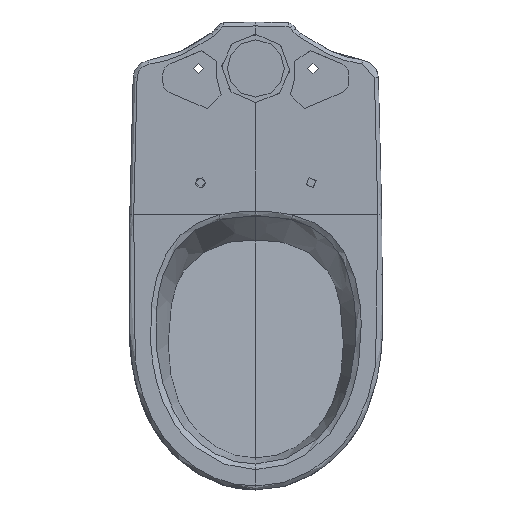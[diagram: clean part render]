
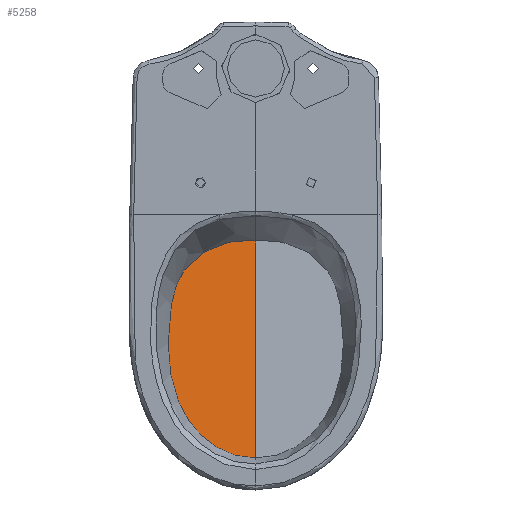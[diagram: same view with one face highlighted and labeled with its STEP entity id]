
A CAD part, top view. The second image highlights one B-rep face of the part: STEP entity #5258.
In plain terms, the highlighted planar face has unit normal (0, 0.093, 0.996).
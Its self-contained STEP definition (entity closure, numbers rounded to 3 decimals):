
#262=PLANE('',#5621);
#722=FACE_OUTER_BOUND('',#1077,.T.);
#1077=EDGE_LOOP('',(#3965,#3966));
#1300=LINE('',#11692,#1413);
#1413=VECTOR('',#5906,306.471);
#1708=B_SPLINE_CURVE_WITH_KNOTS('',3,(#45640,#45641,#45642,#45643,#45644,
#45645,#45646,#45647,#45648,#45649,#45650,#45651,#45652,#45653,#45654,#45655,
#45656,#45657,#45658,#45659,#45660,#45661,#45662,#45663,#45664,#45665,#45666,
#45667,#45668,#45669,#45670,#45671,#45672,#45673,#45674,#45675,#45676,#45677,
#45678,#45679,#45680,#45681,#45682,#45683,#45684,#45685,#45686,#45687,#45688,
#45689,#45690,#45691),.UNSPECIFIED.,.F.,.F.,(4,2,2,2,2,2,1,1,1,1,1,1,1,
1,1,1,1,1,1,1,1,1,1,1,1,1,1,1,1,1,1,1,1,1,1,1,1,1,1,1,1,1,1,1,4),(0.,
0.019,0.031,0.047,0.063,
0.078,0.094,0.109,0.125,
0.141,0.156,0.172,0.188,
0.219,0.25,0.281,0.313,0.344,
0.375,0.406,0.438,0.469,
0.5,0.531,0.563,0.594,
0.625,0.656,0.688,0.719,
0.75,0.781,0.797,0.813,
0.828,0.844,0.859,0.875,
0.891,0.906,0.922,0.938,
0.953,0.969,1.),.UNSPECIFIED.);
#1952=VERTEX_POINT('',#11690);
#1953=VERTEX_POINT('',#11691);
#2430=EDGE_CURVE('',#1952,#1953,#1300,.T.);
#2768=EDGE_CURVE('',#1953,#1952,#1708,.T.);
#3965=ORIENTED_EDGE('',*,*,#2430,.F.);
#3966=ORIENTED_EDGE('',*,*,#2768,.F.);
#5258=ADVANCED_FACE('',(#722),#262,.T.);
#5621=AXIS2_PLACEMENT_3D('',#45639,#6235,#6236);
#5906=DIRECTION('',(0.,-0.996,0.093));
#6235=DIRECTION('center_axis',(0.,0.093,
0.996));
#6236=DIRECTION('ref_axis',(0.,-0.996,0.093));
#11690=CARTESIAN_POINT('',(0.,-319.974,315.));
#11691=CARTESIAN_POINT('',(0.,-625.117,343.5));
#11692=CARTESIAN_POINT('',(0.,-9.712,286.022));
#45639=CARTESIAN_POINT('Origin',(0.,-9.712,
286.022));
#45640=CARTESIAN_POINT('Ctrl Pts',(0.,-625.117,
343.5));
#45641=CARTESIAN_POINT('Ctrl Pts',(-2.833,-625.117,
343.5));
#45642=CARTESIAN_POINT('Ctrl Pts',(-5.666,-625.017,
343.491));
#45643=CARTESIAN_POINT('Ctrl Pts',(-10.305,-624.69,
343.46));
#45644=CARTESIAN_POINT('Ctrl Pts',(-12.114,-624.522,
343.444));
#45645=CARTESIAN_POINT('Ctrl Pts',(-16.228,-624.044,
343.4));
#45646=CARTESIAN_POINT('Ctrl Pts',(-18.53,-623.709,
343.369));
#45647=CARTESIAN_POINT('Ctrl Pts',(-23.106,-622.89,
343.292));
#45648=CARTESIAN_POINT('Ctrl Pts',(-25.382,-622.407,
343.247));
#45649=CARTESIAN_POINT('Ctrl Pts',(-29.889,-621.267,
343.14));
#45650=CARTESIAN_POINT('Ctrl Pts',(-32.121,-620.611,
343.079));
#45651=CARTESIAN_POINT('Ctrl Pts',(-36.523,-619.118,
342.94));
#45652=CARTESIAN_POINT('Ctrl Pts',(-40.862,-617.443,342.783));
#45653=CARTESIAN_POINT('Ctrl Pts',(-47.17,-614.468,342.505));
#45654=CARTESIAN_POINT('Ctrl Pts',(-53.265,-611.082,
342.189));
#45655=CARTESIAN_POINT('Ctrl Pts',(-59.14,-607.333,
341.839));
#45656=CARTESIAN_POINT('Ctrl Pts',(-64.791,-603.258,
341.458));
#45657=CARTESIAN_POINT('Ctrl Pts',(-70.223,-598.897,
341.051));
#45658=CARTESIAN_POINT('Ctrl Pts',(-77.174,-592.74,
340.476));
#45659=CARTESIAN_POINT('Ctrl Pts',(-85.249,-584.39,
339.696));
#45660=CARTESIAN_POINT('Ctrl Pts',(-93.804,-573.391,
338.669));
#45661=CARTESIAN_POINT('Ctrl Pts',(-101.096,-561.525,
337.561));
#45662=CARTESIAN_POINT('Ctrl Pts',(-107.125,-548.981,
336.389));
#45663=CARTESIAN_POINT('Ctrl Pts',(-112.031,-535.966,
335.173));
#45664=CARTESIAN_POINT('Ctrl Pts',(-115.949,-522.628,
333.928));
#45665=CARTESIAN_POINT('Ctrl Pts',(-119.028,-509.074,
332.662));
#45666=CARTESIAN_POINT('Ctrl Pts',(-121.175,-495.341,
331.379));
#45667=CARTESIAN_POINT('Ctrl Pts',(-122.376,-481.496,
330.086));
#45668=CARTESIAN_POINT('Ctrl Pts',(-122.761,-467.607,
328.789));
#45669=CARTESIAN_POINT('Ctrl Pts',(-122.504,-453.717,
327.492));
#45670=CARTESIAN_POINT('Ctrl Pts',(-121.747,-439.847,
326.196));
#45671=CARTESIAN_POINT('Ctrl Pts',(-120.507,-426.009,
324.904));
#45672=CARTESIAN_POINT('Ctrl Pts',(-118.592,-412.246,
323.618));
#45673=CARTESIAN_POINT('Ctrl Pts',(-115.808,-398.626,
322.346));
#45674=CARTESIAN_POINT('Ctrl Pts',(-111.899,-385.276,
321.099));
#45675=CARTESIAN_POINT('Ctrl Pts',(-106.57,-372.41,
319.898));
#45676=CARTESIAN_POINT('Ctrl Pts',(-99.506,-360.384,318.774));
#45677=CARTESIAN_POINT('Ctrl Pts',(-91.999,-351.48,
317.943));
#45678=CARTESIAN_POINT('Ctrl Pts',(-85.043,-345.317,
317.367));
#45679=CARTESIAN_POINT('Ctrl Pts',(-79.442,-341.169,
316.98));
#45680=CARTESIAN_POINT('Ctrl Pts',(-73.556,-337.436,
316.631));
#45681=CARTESIAN_POINT('Ctrl Pts',(-67.449,-334.076,
316.317));
#45682=CARTESIAN_POINT('Ctrl Pts',(-61.167,-331.052,
316.035));
#45683=CARTESIAN_POINT('Ctrl Pts',(-54.743,-328.342,
315.782));
#45684=CARTESIAN_POINT('Ctrl Pts',(-48.204,-325.92,
315.555));
#45685=CARTESIAN_POINT('Ctrl Pts',(-41.546,-323.84,
315.361));
#45686=CARTESIAN_POINT('Ctrl Pts',(-34.755,-322.234,
315.211));
#45687=CARTESIAN_POINT('Ctrl Pts',(-27.862,-321.139,315.109));
#45688=CARTESIAN_POINT('Ctrl Pts',(-20.916,-320.484,315.048));
#45689=CARTESIAN_POINT('Ctrl Pts',(-11.626,-320.027,
315.005));
#45690=CARTESIAN_POINT('Ctrl Pts',(-4.65,-319.974,
315.));
#45691=CARTESIAN_POINT('Ctrl Pts',(0.,-319.974,
315.));
